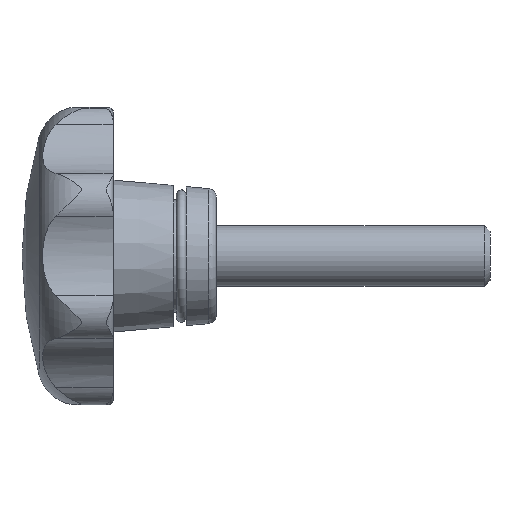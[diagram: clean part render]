
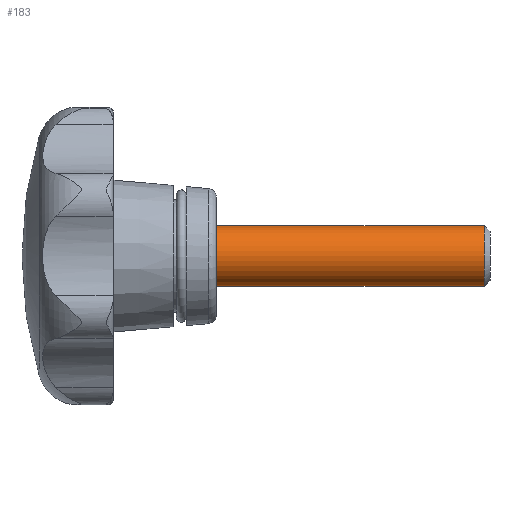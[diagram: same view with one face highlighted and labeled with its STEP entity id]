
A CAD part, left-side view. The second image highlights one B-rep face of the part: STEP entity #183.
In plain terms, the highlighted cylindrical face has radius 5 mm (diameter 10 mm), a full revolution.
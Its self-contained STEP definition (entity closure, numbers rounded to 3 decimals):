
#183 = ADVANCED_FACE( '', ( #346, #347 ), #348, .T. );
#346 = FACE_OUTER_BOUND( '', #669, .T. );
#347 = FACE_OUTER_BOUND( '', #670, .T. );
#348 = CYLINDRICAL_SURFACE( '', #671, 5. );
#669 = EDGE_LOOP( '', ( #1033 ) );
#670 = EDGE_LOOP( '', ( #1034 ) );
#671 = AXIS2_PLACEMENT_3D( '', #1035, #1036, #1037 );
#1033 = ORIENTED_EDGE( '', *, *, #1994, .F. );
#1034 = ORIENTED_EDGE( '', *, *, #1995, .T. );
#1035 = CARTESIAN_POINT( '', ( 0., -45., 0. ) );
#1036 = DIRECTION( '', ( 0., 1., 0. ) );
#1037 = DIRECTION( '', ( 0., 0., -1. ) );
#1994 = EDGE_CURVE( '', #2327, #2327, #2328, .T. );
#1995 = EDGE_CURVE( '', #2329, #2329, #2330, .T. );
#2327 = VERTEX_POINT( '', #2933 );
#2328 = CIRCLE( '', #2934, 5. );
#2329 = VERTEX_POINT( '', #2935 );
#2330 = CIRCLE( '', #2936, 5. );
#2933 = CARTESIAN_POINT( '', ( 0., -44.08, -5. ) );
#2934 = AXIS2_PLACEMENT_3D( '', #4430, #4431, #4432 );
#2935 = CARTESIAN_POINT( '', ( 0., 0., -5. ) );
#2936 = AXIS2_PLACEMENT_3D( '', #4433, #4434, #4435 );
#4430 = CARTESIAN_POINT( '', ( 0., -44.08, 0. ) );
#4431 = DIRECTION( '', ( 0., -1., 0. ) );
#4432 = DIRECTION( '', ( 0., 0., -1. ) );
#4433 = CARTESIAN_POINT( '', ( 0., 0., 0. ) );
#4434 = DIRECTION( '', ( 0., -1., 0. ) );
#4435 = DIRECTION( '', ( 0., 0., -1. ) );
